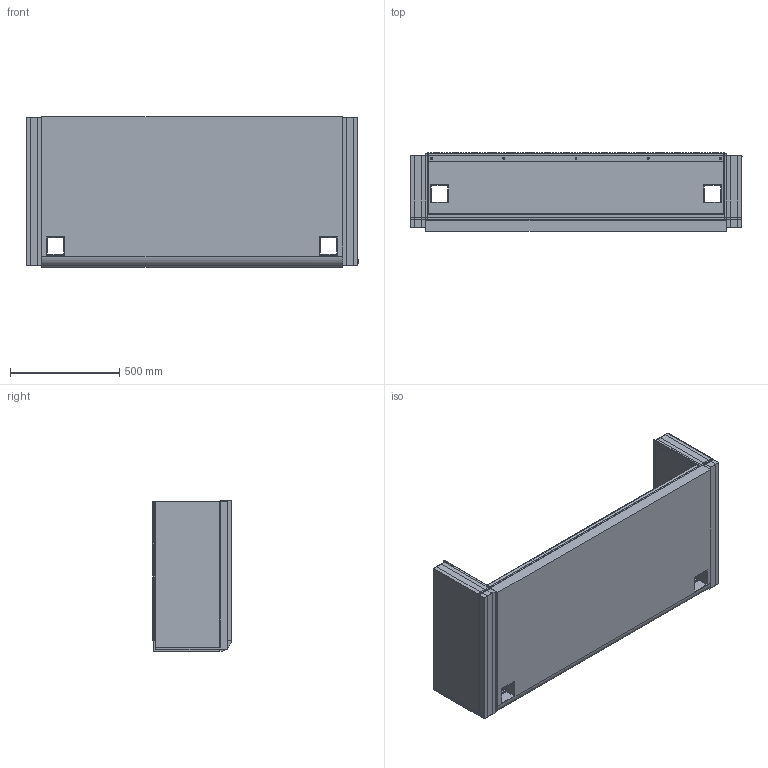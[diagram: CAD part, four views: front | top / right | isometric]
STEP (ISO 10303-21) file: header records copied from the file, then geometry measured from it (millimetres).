
FILE_DESCRIPTION(('CATIA V5 STEP Exchange','CAx-IF Rec.Pracs.--- Composite Materials ---3.4---2017-06-13'),'2;1');
FILE_NAME('C:\Users\MMAK\Documents\SmarTeam\WEBSITE CAD\LIJ\LIJ54.stp','2026-07-15T18:14:31+00:00',('none'),('none'),'CATIA Unofficial Packaging Version SP2','CATIA V5 STEP AP203 v2','none');
FILE_SCHEMA(('CONFIG_CONTROL_DESIGN'));
Length unit declared in the file: inch
Products named in the file (1): 81129 2
Assembly tree (91 placements, depth 2):
  81129 2
    #63
    #945  x74
    #1577
    #4584  x4
    #4883
    #9264  x2
    #11836  x2
    #14441
    #16069  x2
    #18722
    #21995
    #27054
Bounding box: 1517.62 x 359.96 x 689.54 mm (x, y, z)
Volume: 116440153.1 mm3; surface area: 13453817.3 mm2
Topology: 91 solids, 91 shells, 2714 faces, 6208 edges, 3824 vertices
Faces by surface type: plane 1336, cylinder 1066, torus 148, revolution 148, bspline 16
Entity records: 40395 total; most frequent: CARTESIAN_POINT 10699, ORIENTED_EDGE 6526, DIRECTION 4749, EDGE_CURVE 3263, VECTOR 2069, LINE 2069, VERTEX_POINT 2024, AXIS2_PLACEMENT_3D 1803
